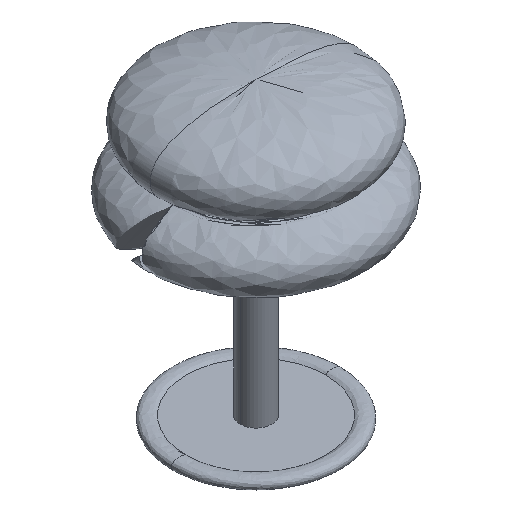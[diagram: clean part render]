
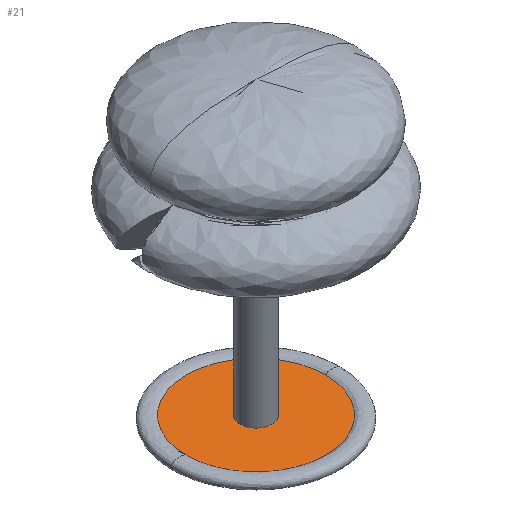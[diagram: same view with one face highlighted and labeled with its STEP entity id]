
A CAD part, isometric view. The second image highlights one B-rep face of the part: STEP entity #21.
In plain terms, the highlighted planar face has unit normal (0, 0, 1).
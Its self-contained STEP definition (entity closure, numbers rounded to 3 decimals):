
#14=FACE_BOUND('',#46,.T.);
#21=ADVANCED_FACE('',(#33,#14),#165,.T.);
#33=FACE_OUTER_BOUND('',#45,.T.);
#45=EDGE_LOOP('',(#74,#75));
#46=EDGE_LOOP('',(#76,#77));
#74=ORIENTED_EDGE('',*,*,#111,.F.);
#75=ORIENTED_EDGE('',*,*,#117,.F.);
#76=ORIENTED_EDGE('',*,*,#107,.F.);
#77=ORIENTED_EDGE('',*,*,#114,.T.);
#107=EDGE_CURVE('',#157,#156,#119,.T.);
#111=EDGE_CURVE('',#161,#158,#121,.T.);
#114=EDGE_CURVE('',#157,#156,#124,.T.);
#117=EDGE_CURVE('',#158,#161,#126,.T.);
#119=TRIMMED_CURVE($,#128,(#723),(#724),.T.,.CARTESIAN.);
#121=TRIMMED_CURVE($,#130,(#753),(#754),.T.,.CARTESIAN.);
#124=TRIMMED_CURVE($,#133,(#762),(#763),.T.,.CARTESIAN.);
#126=TRIMMED_CURVE($,#135,(#770),(#771),.T.,.CARTESIAN.);
#128=CIRCLE('',#269,15.);
#130=CIRCLE('',#271,65.872);
#133=CIRCLE('',#274,15.);
#135=CIRCLE('',#276,65.872);
#156=VERTEX_POINT('',#650);
#157=VERTEX_POINT('',#651);
#158=VERTEX_POINT('',#652);
#161=VERTEX_POINT('',#655);
#165=PLANE('',#264);
#264=AXIS2_PLACEMENT_3D('',#569,#282,$);
#269=AXIS2_PLACEMENT_3D($,#722,#288,#289);
#271=AXIS2_PLACEMENT_3D($,#752,#292,#293);
#274=AXIS2_PLACEMENT_3D($,#761,#298,#299);
#276=AXIS2_PLACEMENT_3D($,#769,#302,#303);
#282=DIRECTION('',(0.,0.,1.));
#288=DIRECTION('',(0.,0.,1.));
#289=DIRECTION('',(1.,0.,0.));
#292=DIRECTION('',(0.,0.,-1.));
#293=DIRECTION('',(-1.,0.,0.));
#298=DIRECTION('',(0.,0.,-1.));
#299=DIRECTION('',(1.,0.,0.));
#302=DIRECTION('',(0.,0.,-1.));
#303=DIRECTION('',(1.,0.,0.));
#569=CARTESIAN_POINT('',(-79.058,-79.058,7.148));
#650=CARTESIAN_POINT('',(-15.,0.,7.148));
#651=CARTESIAN_POINT('',(15.,0.,7.148));
#652=CARTESIAN_POINT('',(65.872,0.,7.148));
#655=CARTESIAN_POINT('',(-65.872,0.,7.148));
#722=CARTESIAN_POINT('',(0.,0.,7.148));
#723=CARTESIAN_POINT('',(15.,0.,7.148));
#724=CARTESIAN_POINT('',(-15.,0.,7.148));
#752=CARTESIAN_POINT('',(0.,0.,7.148));
#753=CARTESIAN_POINT('',(-65.872,0.,7.148));
#754=CARTESIAN_POINT('',(65.872,0.,7.148));
#761=CARTESIAN_POINT('',(0.,0.,7.148));
#762=CARTESIAN_POINT('',(15.,0.,7.148));
#763=CARTESIAN_POINT('',(-15.,0.,7.148));
#769=CARTESIAN_POINT('',(0.,0.,7.148));
#770=CARTESIAN_POINT('',(65.872,0.,7.148));
#771=CARTESIAN_POINT('',(-65.872,0.,7.148));
